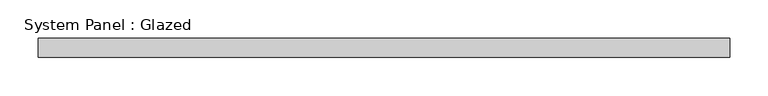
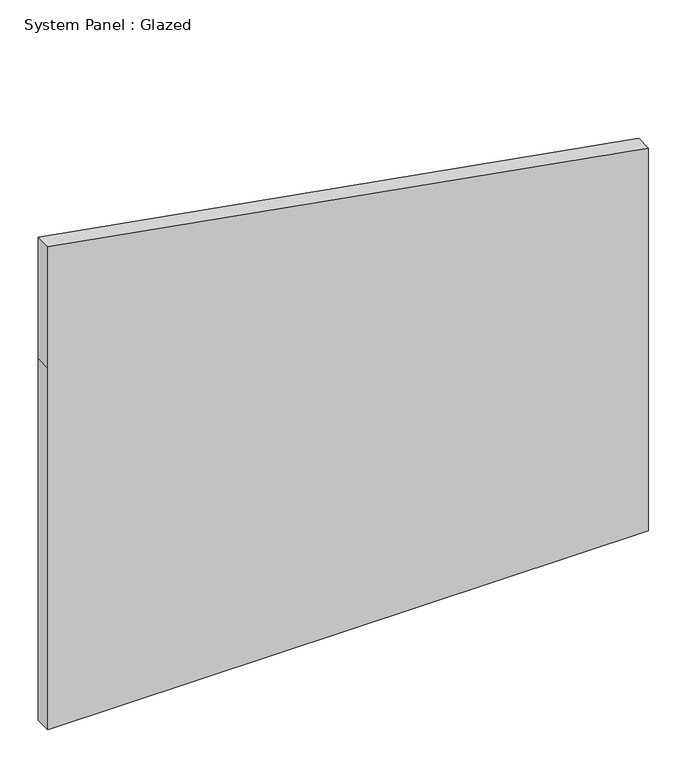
"""IFC4 building model written with IfcOpenShell, lengths in millimetres: plate geometry, System Panel : Glazed."""

from ifc_helpers import new_model, si_unit, frame, origin, place, context, project, spatial, polyline, outline, extrude, source, transform, mapped, element, save


def system_panel_glazed_a339e4a3(model_context):
    return source(origin(), model_context, "Body", "SweptSolid", [
        extrude(outline(polyline([(0.0, -454.025), (0.0, 454.025), (577.85, 454.025), (611.4058491, 454.025), (771.519564, -454.025), (577.85, -454.025), (0.0, -454.025)])), frame((0.0, -44.45, 0.0), z_axis=(0.0, 1.0, 0.0), x_axis=(0.0, 0.0, 1.0)), (0.0, 0.0, 1.0), 25.4),
    ])


if __name__ == "__main__":
    model = new_model("IFC4")
    model_context = context("Model", 3, world=origin())
    ifc_project = project(units=[si_unit("LENGTHUNIT", "METRE", prefix="MILLI")], contexts=[model_context])
    site = spatial("IfcSite", under=ifc_project)
    building = spatial("IfcBuilding", under=site)
    placement = place(None, origin())
    system_panel_glazed_shape = system_panel_glazed_a339e4a3(model_context)
    element("IfcPlate", 1, ObjectType="System Panel : Glazed", at=placement, inside=building, context=model_context, shape_type="MappedRepresentation", body=[
        mapped(system_panel_glazed_shape, transform((0.0, 0.0, 0.0), x_axis=(1.0, 0.0, 0.0), y_axis=(0.0, 1.0, 0.0), z_axis=(0.0, 0.0, 1.0))),
    ])
    save(model, "model.ifc")
